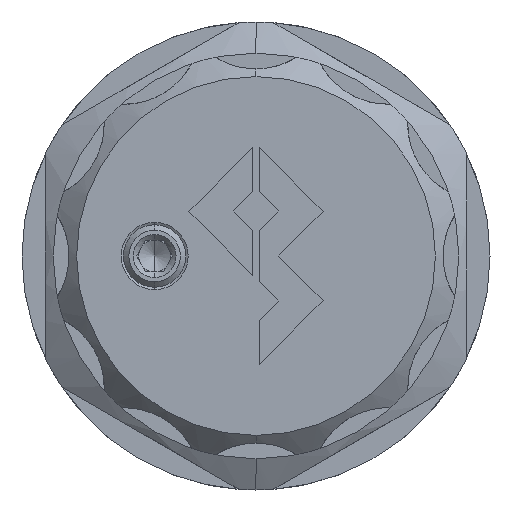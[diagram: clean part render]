
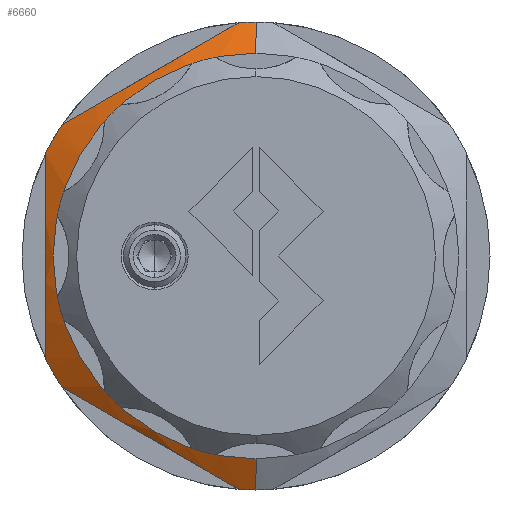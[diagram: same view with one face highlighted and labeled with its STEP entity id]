
A CAD part, left-side view. The second image highlights one B-rep face of the part: STEP entity #6660.
In plain terms, the highlighted conical face has half-angle 60 degrees and reference radius 13 mm.
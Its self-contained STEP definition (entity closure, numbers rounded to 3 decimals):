
#41 = B_SPLINE_CURVE_WITH_KNOTS ( 'NONE', 3,
 ( #9376, #11198, #699, #4584, #4690, #12261, #8537, #6647, #5454, #3672 ),
 .UNSPECIFIED., .F., .F.,
 ( 4, 2, 2, 2, 4 ),
 ( 0., 0.003, 0.007, 0.01, 0.013 ),
 .UNSPECIFIED. ) ;
#55 = ORIENTED_EDGE ( 'NONE', *, *, #2238, .T. ) ;
#122 = EDGE_CURVE ( 'NONE', #6392, #3480, #5343, .T. ) ;
#166 = CIRCLE ( 'NONE', #4216, 15. ) ;
#250 = CARTESIAN_POINT ( 'NONE',  ( 14.155, 12.412, -8.422 ) ) ;
#454 = DIRECTION ( 'NONE',  ( 0.5, 0., 0.866 ) ) ;
#652 = CARTESIAN_POINT ( 'NONE',  ( 13.682, 13.5, -4.375 ) ) ;
#669 = ORIENTED_EDGE ( 'NONE', *, *, #122, .T. ) ;
#699 = CARTESIAN_POINT ( 'NONE',  ( 13.667, 2.951, 13.885 ) ) ;
#951 = VERTEX_POINT ( 'NONE', #6555 ) ;
#1401 = EDGE_CURVE ( 'NONE', #7696, #8518, #41, .T. ) ;
#1803 = EDGE_CURVE ( 'NONE', #7918, #9803, #5313, .T. ) ;
#1844 = CIRCLE ( 'NONE', #8885, 15. ) ;
#1895 = CARTESIAN_POINT ( 'NONE',  ( 13., 0., 0. ) ) ;
#1912 = AXIS2_PLACEMENT_3D ( 'NONE', #5409, #12147, #7228 ) ;
#2095 = CARTESIAN_POINT ( 'NONE',  ( 13.367, 4.854, -12.786 ) ) ;
#2238 = EDGE_CURVE ( 'NONE', #3480, #7696, #166, .T. ) ;
#2331 = CIRCLE ( 'NONE', #9597, 15. ) ;
#2630 = CARTESIAN_POINT ( 'NONE',  ( 13.289, 13.5, -1.103 ) ) ;
#2636 = ORIENTED_EDGE ( 'NONE', *, *, #10296, .T. ) ;
#2693 = CARTESIAN_POINT ( 'NONE',  ( 13.897, 13.5, -5.46 ) ) ;
#2812 = CARTESIAN_POINT ( 'NONE',  ( 13.887, 13.5, 5.476 ) ) ;
#2896 = FACE_OUTER_BOUND ( 'NONE', #6469, .T. ) ;
#2929 = CARTESIAN_POINT ( 'NONE',  ( 14.155, 1.088, -14.961 ) ) ;
#2967 = EDGE_CURVE ( 'NONE', #7744, #10696, #10490, .T. ) ;
#3105 = CARTESIAN_POINT ( 'NONE',  ( 13.885, 11.483, -8.959 ) ) ;
#3299 = CARTESIAN_POINT ( 'NONE',  ( 13., 0., -13. ) ) ;
#3480 = VERTEX_POINT ( 'NONE', #12463 ) ;
#3644 = EDGE_CURVE ( 'NONE', #6392, #951, #9636, .T. ) ;
#3672 = CARTESIAN_POINT ( 'NONE',  ( 14.155, 12.412, 8.422 ) ) ;
#4216 = AXIS2_PLACEMENT_3D ( 'NONE', #8788, #5948, #9806 ) ;
#4248 = LINE ( 'NONE', #3299, #11382 ) ;
#4268 = CARTESIAN_POINT ( 'NONE',  ( 14.155, 13.5, 6.538 ) ) ;
#4445 = CARTESIAN_POINT ( 'NONE',  ( 14.155, 13.5, -6.538 ) ) ;
#4474 = CARTESIAN_POINT ( 'NONE',  ( 13., 0., 0. ) ) ;
#4584 = CARTESIAN_POINT ( 'NONE',  ( 13.37, 4.831, 12.799 ) ) ;
#4591 = EDGE_CURVE ( 'NONE', #8518, #7918, #1844, .T. ) ;
#4690 = CARTESIAN_POINT ( 'NONE',  ( 13.29, 5.777, 12.253 ) ) ;
#4735 = CARTESIAN_POINT ( 'NONE',  ( 14.155, 0., -15. ) ) ;
#4822 = CARTESIAN_POINT ( 'NONE',  ( 13.288, 5.818, -12.23 ) ) ;
#4839 = ORIENTED_EDGE ( 'NONE', *, *, #1803, .T. ) ;
#4844 = DIRECTION ( 'NONE',  ( 0., 0., 1. ) ) ;
#4975 = DIRECTION ( 'NONE',  ( 0., 0., 1. ) ) ;
#5006 = CARTESIAN_POINT ( 'NONE',  ( 13.667, 10.549, -9.498 ) ) ;
#5135 = CIRCLE ( 'NONE', #1912, 15. ) ;
#5313 = B_SPLINE_CURVE_WITH_KNOTS ( 'NONE', 3,
 ( #4268, #2812, #11401, #9574, #11515, #6546, #10397, #2630, #6480, #12279, #652, #2693, #12326, #12389 ),
 .UNSPECIFIED., .F., .F.,
 ( 4, 2, 2, 2, 2, 2, 4 ),
 ( 0.007, 0.01, 0.012, 0.014, 0.017, 0.019, 0.02 ),
 .UNSPECIFIED. ) ;
#5343 = LINE ( 'NONE', #9193, #10180 ) ;
#5409 = CARTESIAN_POINT ( 'NONE',  ( 14.155, 0., 0. ) ) ;
#5454 = CARTESIAN_POINT ( 'NONE',  ( 13.884, 11.481, 8.96 ) ) ;
#5483 = VERTEX_POINT ( 'NONE', #4735 ) ;
#5493 = ORIENTED_EDGE ( 'NONE', *, *, #9821, .F. ) ;
#5626 = ORIENTED_EDGE ( 'NONE', *, *, #1401, .T. ) ;
#5801 = DIRECTION ( 'NONE',  ( 1., 0., 0. ) ) ;
#5816 = CARTESIAN_POINT ( 'NONE',  ( 13., 0., 13. ) ) ;
#5913 = CARTESIAN_POINT ( 'NONE',  ( 14.155, 1.088, 14.961 ) ) ;
#5948 = DIRECTION ( 'NONE',  ( -1., 0., 0. ) ) ;
#6392 = VERTEX_POINT ( 'NONE', #5816 ) ;
#6469 = EDGE_LOOP ( 'NONE', ( #11859, #669, #55, #5626, #10527, #4839, #2636, #7253, #12072, #5493 ) ) ;
#6480 = CARTESIAN_POINT ( 'NONE',  ( 13.368, 13.5, -2.198 ) ) ;
#6546 = CARTESIAN_POINT ( 'NONE',  ( 13.308, 13.5, 1.099 ) ) ;
#6555 = CARTESIAN_POINT ( 'NONE',  ( 13., 0., -13. ) ) ;
#6647 = CARTESIAN_POINT ( 'NONE',  ( 13.665, 10.542, 9.502 ) ) ;
#6660 = ADVANCED_FACE ( 'NONE', ( #2896 ), #10161, .T. ) ;
#6952 = CARTESIAN_POINT ( 'NONE',  ( 13.29, 7.723, -11.129 ) ) ;
#7228 = DIRECTION ( 'NONE',  ( 0., 0., 1. ) ) ;
#7253 = ORIENTED_EDGE ( 'NONE', *, *, #2967, .T. ) ;
#7696 = VERTEX_POINT ( 'NONE', #5913 ) ;
#7744 = VERTEX_POINT ( 'NONE', #11213 ) ;
#7810 = CARTESIAN_POINT ( 'NONE',  ( 14.155, 12.412, 8.422 ) ) ;
#7918 = VERTEX_POINT ( 'NONE', #10330 ) ;
#8123 = CARTESIAN_POINT ( 'NONE',  ( 14.155, 0., 0. ) ) ;
#8518 = VERTEX_POINT ( 'NONE', #7810 ) ;
#8537 = CARTESIAN_POINT ( 'NONE',  ( 13.367, 8.646, 10.597 ) ) ;
#8558 = DIRECTION ( 'NONE',  ( -1., 0., 0. ) ) ;
#8685 = CARTESIAN_POINT ( 'NONE',  ( 14.155, 0., 0. ) ) ;
#8788 = CARTESIAN_POINT ( 'NONE',  ( 14.155, 0., 0. ) ) ;
#8885 = AXIS2_PLACEMENT_3D ( 'NONE', #8685, #9643, #4844 ) ;
#8918 = AXIS2_PLACEMENT_3D ( 'NONE', #1895, #5801, #11539 ) ;
#9193 = CARTESIAN_POINT ( 'NONE',  ( 13., 0., 13. ) ) ;
#9376 = CARTESIAN_POINT ( 'NONE',  ( 14.155, 1.088, 14.961 ) ) ;
#9460 = EDGE_CURVE ( 'NONE', #10696, #5483, #5135, .T. ) ;
#9574 = CARTESIAN_POINT ( 'NONE',  ( 13.444, 13.5, 2.759 ) ) ;
#9597 = AXIS2_PLACEMENT_3D ( 'NONE', #8123, #11950, #4975 ) ;
#9636 = CIRCLE ( 'NONE', #10636, 13. ) ;
#9643 = DIRECTION ( 'NONE',  ( -1., 0., 0. ) ) ;
#9742 = CARTESIAN_POINT ( 'NONE',  ( 13.665, 2.958, -13.881 ) ) ;
#9803 = VERTEX_POINT ( 'NONE', #4445 ) ;
#9806 = DIRECTION ( 'NONE',  ( 0., 0., 1. ) ) ;
#9808 = CARTESIAN_POINT ( 'NONE',  ( 13.884, 2.019, -14.423 ) ) ;
#9821 = EDGE_CURVE ( 'NONE', #951, #5483, #4248, .T. ) ;
#9871 = CARTESIAN_POINT ( 'NONE',  ( 14.155, 1.088, -14.961 ) ) ;
#10161 = CONICAL_SURFACE ( 'NONE', #8918, 13., 1.047 ) ;
#10180 = VECTOR ( 'NONE', #454, 1000. ) ;
#10296 = EDGE_CURVE ( 'NONE', #9803, #7744, #2331, .T. ) ;
#10330 = CARTESIAN_POINT ( 'NONE',  ( 14.155, 13.5, 6.538 ) ) ;
#10397 = CARTESIAN_POINT ( 'NONE',  ( 13.289, 13.5, 0.547 ) ) ;
#10490 = B_SPLINE_CURVE_WITH_KNOTS ( 'NONE', 3,
 ( #250, #3105, #5006, #11689, #6952, #4822, #2095, #9742, #9808, #9871 ),
 .UNSPECIFIED., .F., .F.,
 ( 4, 2, 2, 2, 4 ),
 ( 0., 0.003, 0.007, 0.01, 0.013 ),
 .UNSPECIFIED. ) ;
#10527 = ORIENTED_EDGE ( 'NONE', *, *, #4591, .T. ) ;
#10636 = AXIS2_PLACEMENT_3D ( 'NONE', #4474, #8558, #12160 ) ;
#10696 = VERTEX_POINT ( 'NONE', #2929 ) ;
#11198 = CARTESIAN_POINT ( 'NONE',  ( 13.885, 2.017, 14.424 ) ) ;
#11213 = CARTESIAN_POINT ( 'NONE',  ( 14.155, 12.412, -8.422 ) ) ;
#11382 = VECTOR ( 'NONE', #12067, 1000. ) ;
#11401 = CARTESIAN_POINT ( 'NONE',  ( 13.669, 13.5, 4.4 ) ) ;
#11515 = CARTESIAN_POINT ( 'NONE',  ( 13.386, 13.5, 2.205 ) ) ;
#11539 = DIRECTION ( 'NONE',  ( 0., 0., -1. ) ) ;
#11689 = CARTESIAN_POINT ( 'NONE',  ( 13.37, 8.669, -10.583 ) ) ;
#11859 = ORIENTED_EDGE ( 'NONE', *, *, #3644, .F. ) ;
#11950 = DIRECTION ( 'NONE',  ( -1., 0., 0. ) ) ;
#12067 = DIRECTION ( 'NONE',  ( 0.5, 0., -0.866 ) ) ;
#12072 = ORIENTED_EDGE ( 'NONE', *, *, #9460, .T. ) ;
#12147 = DIRECTION ( 'NONE',  ( -1., 0., 0. ) ) ;
#12160 = DIRECTION ( 'NONE',  ( 0., 0., 1. ) ) ;
#12261 = CARTESIAN_POINT ( 'NONE',  ( 13.288, 7.682, 11.153 ) ) ;
#12279 = CARTESIAN_POINT ( 'NONE',  ( 13.591, 13.5, -3.832 ) ) ;
#12326 = CARTESIAN_POINT ( 'NONE',  ( 14.02, 13.5, -6.002 ) ) ;
#12389 = CARTESIAN_POINT ( 'NONE',  ( 14.155, 13.5, -6.538 ) ) ;
#12463 = CARTESIAN_POINT ( 'NONE',  ( 14.155, 0., 15. ) ) ;
